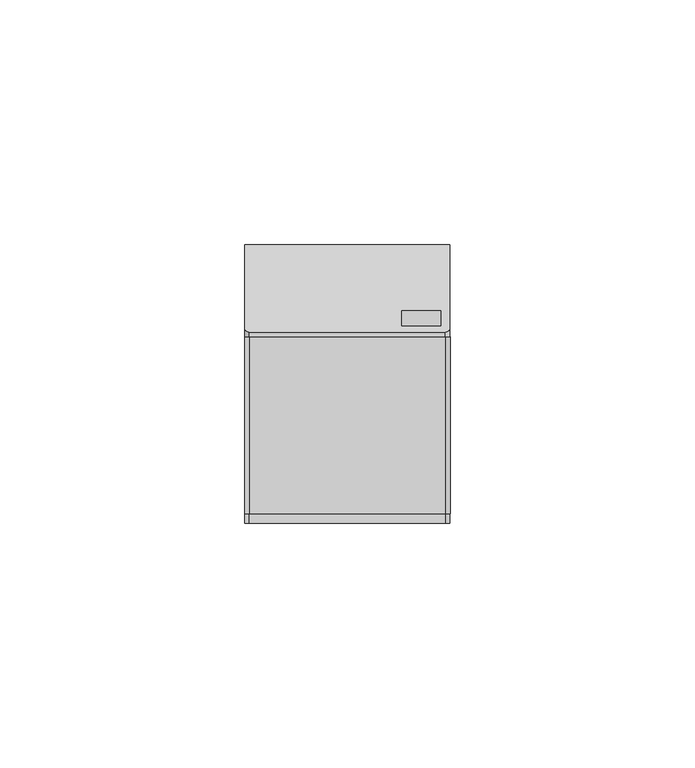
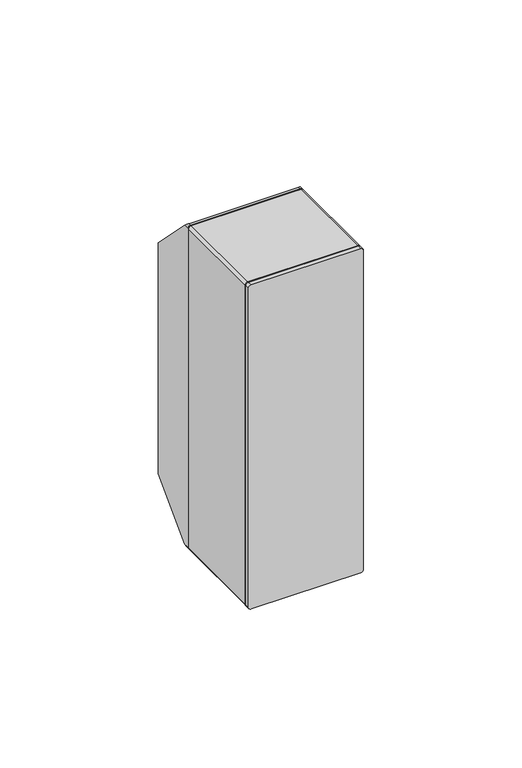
"""IFC4 building model written with IfcOpenShell, lengths in millimetres: proxy geometry, КМПн-1_4 : КМПн-1/4 инд.штрихкод_ЭКО бук/венге."""

from ifc_helpers import new_model, si_unit, point, frame, frame_2d, origin, place, context, project, spatial, polyline, circle_curve, ellipse_curve, trimmed, segment, composite_curve, outline, extrude, source, transform, mapped, element, save
from ifc_brep_helpers import plane_surface, cylinder_surface, advanced_brep


def electrical_equipment_934612fc(model_context):
    return source(origin(), model_context, "Body", "SolidModel", [
        advanced_brep(
        [(21.0, 57.0, 17.8949117), (21.0, 57.0, 107.1050883), (21.0, 40.1050883, 124.0), (21.0, 38.1050883, 124.0), (21.0, 38.1050883, 1.0), (21.0, 40.1050883, 1.0), (-21.0, 57.0, 107.1050883), (-21.0, 57.0, 17.8949117), (-21.0, 40.1050883, 1.0), (-21.0, 38.1050883, 1.0), (-21.0, 38.1050883, 124.0), (-21.0, 40.1050883, 124.0), (20.0, 38.1050883, 125.0), (-20.0, 38.1050883, 125.0), (-20.0, 38.1050883, 0.0), (20.0, 38.1050883, 0.0), (-6.0, 38.1050883, 95.0), (6.0, 38.1050883, 95.0), (6.0, 38.1050883, 30.0), (-6.0, 38.1050883, 30.0), (11.1494483, 38.1050883, 120.6777382), (11.1494483, 38.1050883, 123.6777382), (19.1494483, 38.1050883, 123.6777382), (19.1494483, 38.1050883, 120.6777382), (-11.1494483, 38.1050883, 4.3222618), (-11.1494483, 38.1050883, 1.3222618), (-19.1494483, 38.1050883, 1.3222618), (-19.1494483, 38.1050883, 4.3222618), (-20.0, 39.1050883, 125.0), (20.0, 39.1050883, 125.0), (11.1494483, 40.42735, 123.6777382), (11.1494483, 43.42735, 120.6777382), (19.1494483, 43.42735, 120.6777382), (19.1494483, 40.42735, 123.6777382), (6.0, 57.0, 95.0), (-6.0, 57.0, 95.0), (-6.0, 57.0, 30.0), (6.0, 57.0, 30.0), (-20.0, 39.1050883, 0.0), (20.0, 39.1050883, 0.0), (-11.1494483, 40.42735, 1.3222618), (-11.1494483, 43.42735, 4.3222618), (-19.1494483, 43.42735, 4.3222618), (-19.1494483, 40.42735, 1.3222618)],
        [
            (0, 1),
            (1, 2),
            (2, 3),
            (3, 4),
            (4, 5),
            (5, 0),
            (6, 7),
            (7, 8),
            (8, 9),
            (9, 10),
            (10, 11),
            (11, 6),
            (3, 12, circle_curve(frame((20.0, 38.1050883, 124.0), z_axis=(0.0, -1.0, 0.0), x_axis=(1.0, 0.0, 0.0)), 1.0)),
            (12, 13),
            (13, 10, circle_curve(frame((-20.0, 38.1050883, 124.0), z_axis=(0.0, -1.0, 0.0), x_axis=(1.0, 0.0, 0.0)), 1.0)),
            (9, 14, circle_curve(frame((-20.0, 38.1050883, 1.0), z_axis=(0.0, -1.0, 0.0), x_axis=(1.0, 0.0, 0.0)), 1.0)),
            (14, 15),
            (15, 4, circle_curve(frame((20.0, 38.1050883, 1.0), z_axis=(0.0, -1.0, 0.0), x_axis=(1.0, 0.0, 0.0)), 1.0)),
            (16, 17),
            (17, 18),
            (18, 19),
            (19, 16),
            (20, 21),
            (21, 22),
            (22, 23),
            (23, 20),
            (24, 25),
            (25, 26),
            (26, 27),
            (27, 24),
            (1, 6),
            (11, 28, ellipse_curve(frame((-20.0, 40.1050883, 124.0), z_axis=(0.0, 0.7071067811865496, 0.7071067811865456), x_axis=(0.0, 0.7071067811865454, -0.7071067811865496)), 1.4142136, 1.0)),
            (28, 29),
            (29, 2, ellipse_curve(frame((20.0, 40.1050883, 124.0), z_axis=(0.0, 0.7071067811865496, 0.7071067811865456), x_axis=(0.0, 0.7071067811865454, -0.7071067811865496)), 1.4142136, 1.0)),
            (30, 31),
            (31, 32),
            (32, 33),
            (33, 30),
            (0, 7),
            (34, 35),
            (35, 36),
            (36, 37),
            (37, 34),
            (34, 17),
            (16, 35),
            (19, 36),
            (18, 37),
            (29, 12),
            (14, 38),
            (38, 39),
            (39, 15),
            (5, 39, ellipse_curve(frame((20.0, 40.1050883, 1.0), z_axis=(0.0, 0.7071067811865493, -0.7071067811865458), x_axis=(0.0, 0.7071067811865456, 0.7071067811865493)), 1.4142136, 1.0)),
            (38, 8, ellipse_curve(frame((-20.0, 40.1050883, 1.0), z_axis=(0.0, 0.7071067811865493, -0.7071067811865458), x_axis=(0.0, 0.7071067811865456, 0.7071067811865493)), 1.4142136, 1.0)),
            (40, 41),
            (41, 42),
            (42, 43),
            (43, 40),
            (28, 13),
            (30, 21),
            (20, 31),
            (23, 32),
            (22, 33),
            (40, 25),
            (24, 41),
            (27, 42),
            (26, 43),
        ],
        [
            plane_surface(frame((21.0, 38.1050883, 0.0), z_axis=(1.0, 0.0, 0.0), x_axis=(0.0, 0.0, -1.0))),
            plane_surface(frame((-21.0, 38.1050883, 0.0), z_axis=(-1.0, 0.0, 0.0), x_axis=(0.0, 0.0, 1.0))),
            plane_surface(frame((21.0, 38.1050883, 125.0), z_axis=(0.0, -1.0, 0.0), x_axis=(-1.0, 0.0, 0.0))),
            plane_surface(frame((21.0, 57.0, 107.1050883), z_axis=(0.0, 0.7071067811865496, 0.7071067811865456), x_axis=(-1.0, 0.0, 0.0))),
            plane_surface(frame((21.0, 57.0, 17.8949117), z_axis=(0.0, 1.0, 0.0), x_axis=(-1.0, 0.0, 0.0))),
            plane_surface(frame((6.0, 28.0, 95.0), z_axis=(0.0, 0.0, -1.0), x_axis=(0.0, 1.0, 0.0))),
            plane_surface(frame((-6.0, 28.0, 95.0), z_axis=(1.0, 0.0, 0.0), x_axis=(0.0, 1.0, 0.0))),
            plane_surface(frame((-6.0, 28.0, 30.0), z_axis=(0.0, 0.0, 1.0), x_axis=(0.0, 1.0, 0.0))),
            plane_surface(frame((6.0, 28.0, 30.0), z_axis=(-1.0, 0.0, 0.0), x_axis=(0.0, 1.0, 0.0))),
            cylinder_surface(frame((20.0, 54.9735274, 124.0), z_axis=(0.0, 1.0, 0.0), x_axis=(1.0, 0.0, 0.0)), 1.0),
            plane_surface(frame((21.0, 38.1050883, 0.0), z_axis=(0.0, 3.0645985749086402e-12, -1.0), x_axis=(-1.0, 0.0, 0.0))),
            plane_surface(frame((21.0, 39.1050883, 0.0), z_axis=(0.0, 0.7071067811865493, -0.7071067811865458), x_axis=(-1.0, 0.0, 0.0))),
            plane_surface(frame((21.0, 39.1050883, 125.0), z_axis=(0.0, 3.0624836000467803e-12, 1.0), x_axis=(-1.0, 0.0, 0.0))),
            cylinder_surface(frame((-20.0, -16.0, 124.0), z_axis=(0.0, 1.0, 0.0), x_axis=(1.0, 0.0, 0.0)), 1.0),
            cylinder_surface(frame((20.0, -16.0, 1.0), z_axis=(0.0, 1.0, 0.0), x_axis=(1.0, 0.0, 0.0)), 1.0),
            cylinder_surface(frame((-20.0, -16.0, 1.0), z_axis=(0.0, 1.0, 0.0), x_axis=(1.0, 0.0, 0.0)), 1.0),
            plane_surface(frame((11.1494483, 38.1050883, 123.6777382), z_axis=(1.0, 0.0, 0.0), x_axis=(0.0, 1.0, 0.0))),
            plane_surface(frame((11.1494483, 38.1050883, 120.6777382), z_axis=(0.0, 0.0, 1.0), x_axis=(0.0, 1.0, 0.0))),
            plane_surface(frame((19.1494483, 38.1050883, 120.6777382), z_axis=(-1.0, 0.0, 0.0), x_axis=(0.0, 1.0, 0.0))),
            plane_surface(frame((19.1494483, 38.1050883, 123.6777382), z_axis=(0.0, 0.0, -1.0), x_axis=(0.0, 1.0, 0.0))),
            plane_surface(frame((-11.1494483, 38.1050883, 1.3222618), z_axis=(-1.0, 0.0, 0.0), x_axis=(0.0, 1.0, 0.0))),
            plane_surface(frame((-11.1494483, 38.1050883, 4.3222618), z_axis=(0.0, 0.0, -1.0), x_axis=(0.0, 1.0, 0.0))),
            plane_surface(frame((-19.1494483, 38.1050883, 4.3222618), z_axis=(1.0, 0.0, 0.0), x_axis=(0.0, 1.0, 0.0))),
            plane_surface(frame((-19.1494483, 38.1050883, 1.3222618), z_axis=(0.0, 0.0, 1.0), x_axis=(0.0, 1.0, 0.0))),
        ],
        [
            (0, [[1, 2, 3, 4, 5, 6]]),
            (1, [[7, 8, 9, 10, 11, 12]]),
            (2, [[-4, 13, 14, 15, -10, 16, 17, 18], [19, 20, 21, 22], [23, 24, 25, 26], [27, 28, 29, 30]]),
            (3, [[31, -12, 32, 33, 34, -2], [35, 36, 37, 38]]),
            (4, [[-1, 39, -7, -31], [40, 41, 42, 43]]),
            (5, [[44, -19, 45, -40]]),
            (6, [[-45, -22, 46, -41]]),
            (7, [[-46, -21, 47, -42]]),
            (8, [[-44, -43, -47, -20]]),
            (9, [[-3, -34, 48, -13]]),
            (10, [[-17, 49, 50, 51]]),
            (11, [[-39, -6, 52, -50, 53, -8], [54, 55, 56, 57]]),
            (12, [[-14, -48, -33, 58]]),
            (13, [[-11, -15, -58, -32]]),
            (14, [[-5, -18, -51, -52]]),
            (15, [[-9, -53, -49, -16]]),
            (16, [[59, -23, 60, -35]]),
            (17, [[-60, -26, 61, -36]]),
            (18, [[-61, -25, 62, -37]]),
            (19, [[-59, -38, -62, -24]]),
            (20, [[63, -27, 64, -54]]),
            (21, [[-64, -30, 65, -55]]),
            (22, [[-65, -29, 66, -56]]),
            (23, [[-63, -57, -66, -28]]),
        ],
    ),
        extrude(outline(composite_curve([segment(polyline([(125.0, 20.0143257), (125.0, -19.9856743)]), True, "CONTINUOUS"), segment(trimmed(circle_curve(frame_2d((124.0, -19.9856743)), 1.0), [point((125.0, -19.9856743))], [point((124.0, -20.9856743))], False, "CARTESIAN"), True, "CONTINUOUS"), segment(polyline([(124.0, -20.9856743), (1.0, -20.9856743)]), True, "CONTINUOUS"), segment(trimmed(circle_curve(frame_2d((1.0, -19.9856743)), 1.0), [point((1.0, -20.9856743))], [point((0.0, -19.9856743))], False, "CARTESIAN"), True, "CONTINUOUS"), segment(polyline([(0.0, -19.9856743), (0.0, 20.0143257)]), True, "CONTINUOUS"), segment(trimmed(circle_curve(frame_2d((1.0, 20.0143257)), 1.0), [point((0.0, 20.0143257))], [point((1.0, 21.0143257))], False, "CARTESIAN"), True, "CONTINUOUS"), segment(polyline([(1.0, 21.0143257), (124.0, 21.0143257)]), True, "CONTINUOUS"), segment(trimmed(circle_curve(frame_2d((124.0, 20.0143257)), 1.0), [point((124.0, 21.0143257))], [point((125.0, 20.0143257))], False, "CARTESIAN"), True, "CONTINUOUS")], self_intersect=False), holes=[polyline([(120.9981471, 12.4911629), (4.0018529, 12.4911629), (4.0018529, -12.4911629), (120.9981471, -12.4911629), (120.9981471, 12.4911629)])]), frame((0.0, 2.0, 0.0), z_axis=(0.0, 1.0, 0.0), x_axis=(0.0, 0.0, 1.0)), (0.0, 0.0, 1.0), 36.1050883),
        extrude(outline(composite_curve([segment(polyline([(125.0, 20.0), (125.0, -20.0)]), True, "CONTINUOUS"), segment(trimmed(circle_curve(frame_2d((124.0, -20.0)), 1.0), [point((125.0, -20.0))], [point((124.0, -21.0))], False, "CARTESIAN"), True, "CONTINUOUS"), segment(polyline([(124.0, -21.0), (1.0, -21.0)]), True, "CONTINUOUS"), segment(trimmed(circle_curve(frame_2d((1.0, -20.0)), 1.0), [point((1.0, -21.0))], [point((0.0, -20.0))], False, "CARTESIAN"), True, "CONTINUOUS"), segment(polyline([(0.0, -20.0), (0.0, 20.0)]), True, "CONTINUOUS"), segment(trimmed(circle_curve(frame_2d((1.0, 20.0)), 1.0), [point((0.0, 20.0))], [point((1.0, 21.0))], False, "CARTESIAN"), True, "CONTINUOUS"), segment(polyline([(1.0, 21.0), (124.0, 21.0)]), True, "CONTINUOUS"), segment(trimmed(circle_curve(frame_2d((124.0, 20.0)), 1.0), [point((124.0, 21.0))], [point((125.0, 20.0))], False, "CARTESIAN"), True, "CONTINUOUS")], self_intersect=False)), frame((0.0, 0.0, 0.0), z_axis=(0.0, 1.0, 0.0), x_axis=(0.0, 0.0, 1.0)), (0.0, 0.0, 1.0), 2.0),
    ])


if __name__ == "__main__":
    model = new_model("IFC4")
    model_context = context("Model", 3, world=origin())
    ifc_project = project(units=[si_unit("LENGTHUNIT", "METRE", prefix="MILLI")], contexts=[model_context])
    site = spatial("IfcSite", under=ifc_project)
    building = spatial("IfcBuilding", under=site)
    placement = place(None, origin())
    electrical_equipment_shape = electrical_equipment_934612fc(model_context)
    element("IfcBuildingElementProxy", 1, Name="КМПн-1_4 : КМПн-1/4 инд.штрихкод_ЭКО бук/венге", ObjectType="КМПн-1_4 : КМПн-1/4 инд.штрихкод_ЭКО бук/венге", at=placement, inside=building, context=model_context, shape_type="MappedRepresentation", body=[
        mapped(electrical_equipment_shape, transform((0.0, 0.0, 0.0), x_axis=(1.0, 0.0, 0.0), y_axis=(0.0, 1.0, 0.0), z_axis=(0.0, 0.0, 1.0))),
    ])
    save(model, "model.ifc")
